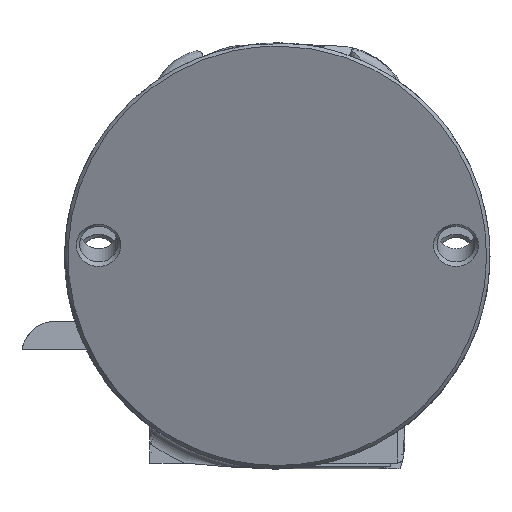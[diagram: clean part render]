
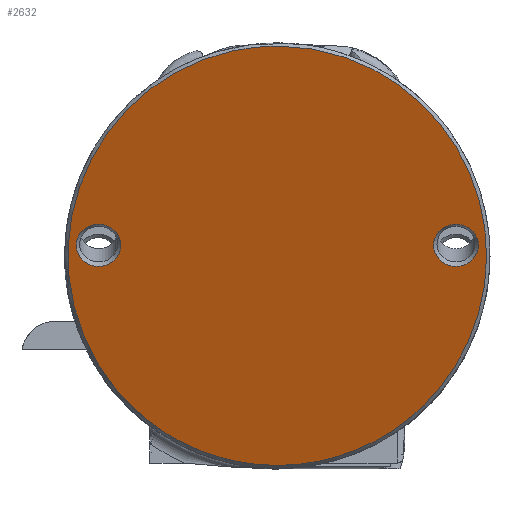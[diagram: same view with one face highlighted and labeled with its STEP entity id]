
A CAD part, top view. The second image highlights one B-rep face of the part: STEP entity #2632.
In plain terms, the highlighted planar face has unit normal (0, -0.348, 0.938).
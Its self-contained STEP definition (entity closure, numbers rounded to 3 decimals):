
#49=B_SPLINE_CURVE_WITH_KNOTS('',3,(#3925,#3926,#3927,#3928,#3929,#3930,
#3931,#3932,#3933,#3934,#3935,#3936,#3937,#3938,#3939,#3940,#3941,#3942,
#3943,#3944,#3945),.UNSPECIFIED.,.T.,.F.,(4,1,1,1,1,1,1,1,1,1,1,1,1,1,1,
1,1,1,4),(0.,0.449,0.898,1.197,
1.496,1.795,2.094,2.394,2.693,
2.992,3.291,3.59,3.89,4.189,
4.488,4.937,5.386,5.834,6.283),
 .UNSPECIFIED.);
#328=FACE_BOUND('',#605,.T.);
#329=FACE_BOUND('',#606,.T.);
#350=PLANE('',#2840);
#437=FACE_OUTER_BOUND('',#604,.T.);
#604=EDGE_LOOP('',(#1860));
#605=EDGE_LOOP('',(#1861));
#606=EDGE_LOOP('',(#1862));
#965=CIRCLE('',#2839,3.95);
#966=CIRCLE('',#2841,3.95);
#1098=VERTEX_POINT('',#3920);
#1099=VERTEX_POINT('',#3924);
#1100=VERTEX_POINT('',#3946);
#1387=EDGE_CURVE('',#1098,#1098,#965,.T.);
#1389=EDGE_CURVE('',#1099,#1099,#49,.T.);
#1390=EDGE_CURVE('',#1100,#1100,#966,.T.);
#1860=ORIENTED_EDGE('',*,*,#1389,.F.);
#1861=ORIENTED_EDGE('',*,*,#1390,.F.);
#1862=ORIENTED_EDGE('',*,*,#1387,.F.);
#2632=ADVANCED_FACE('',(#437,#328,#329),#350,.F.);
#2839=AXIS2_PLACEMENT_3D('',#3921,#3131,#3132);
#2840=AXIS2_PLACEMENT_3D('',#3923,#3134,#3135);
#2841=AXIS2_PLACEMENT_3D('',#3947,#3136,#3137);
#3131=DIRECTION('center_axis',(0.,-0.348,0.938));
#3132=DIRECTION('ref_axis',(1.,0.,0.));
#3134=DIRECTION('center_axis',(0.,0.348,-0.938));
#3135=DIRECTION('ref_axis',(0.,-0.938,-0.348));
#3136=DIRECTION('center_axis',(0.,-0.348,0.938));
#3137=DIRECTION('ref_axis',(1.,0.,0.));
#3920=CARTESIAN_POINT('',(-35.45,1.837,66.892));
#3921=CARTESIAN_POINT('Origin',(-31.5,1.837,66.892));
#3923=CARTESIAN_POINT('Origin',(37.5,37.5,80.129));
#3924=CARTESIAN_POINT('',(0.,36.938,79.921));
#3925=CARTESIAN_POINT('Ctrl Pts',(0.,36.938,79.921));
#3926=CARTESIAN_POINT('Ctrl Pts',(5.514,36.938,79.921));
#3927=CARTESIAN_POINT('Ctrl Pts',(16.542,34.426,78.988));
#3928=CARTESIAN_POINT('Ctrl Pts',(28.343,25.009,75.493));
#3929=CARTESIAN_POINT('Ctrl Pts',(34.861,13.709,71.299));
#3930=CARTESIAN_POINT('Ctrl Pts',(37.352,2.805,67.251));
#3931=CARTESIAN_POINT('Ctrl Pts',(36.515,-8.351,63.11));
#3932=CARTESIAN_POINT('Ctrl Pts',(32.429,-18.762,59.246));
#3933=CARTESIAN_POINT('Ctrl Pts',(25.46,-27.498,56.003));
#3934=CARTESIAN_POINT('Ctrl Pts',(16.236,-33.787,53.669));
#3935=CARTESIAN_POINT('Ctrl Pts',(5.576,-37.074,52.449));
#3936=CARTESIAN_POINT('Ctrl Pts',(-5.576,-37.074,52.449));
#3937=CARTESIAN_POINT('Ctrl Pts',(-16.235,-33.786,53.669));
#3938=CARTESIAN_POINT('Ctrl Pts',(-25.461,-27.498,56.003));
#3939=CARTESIAN_POINT('Ctrl Pts',(-32.428,-18.761,59.246));
#3940=CARTESIAN_POINT('Ctrl Pts',(-37.201,-6.617,63.754));
#3941=CARTESIAN_POINT('Ctrl Pts',(-37.206,8.509,69.368));
#3942=CARTESIAN_POINT('Ctrl Pts',(-29.824,23.836,75.057));
#3943=CARTESIAN_POINT('Ctrl Pts',(-16.539,34.424,78.987));
#3944=CARTESIAN_POINT('Ctrl Pts',(-5.514,36.938,79.921));
#3945=CARTESIAN_POINT('Ctrl Pts',(0.,36.938,79.921));
#3946=CARTESIAN_POINT('',(27.55,1.837,66.892));
#3947=CARTESIAN_POINT('Origin',(31.5,1.837,66.892));
